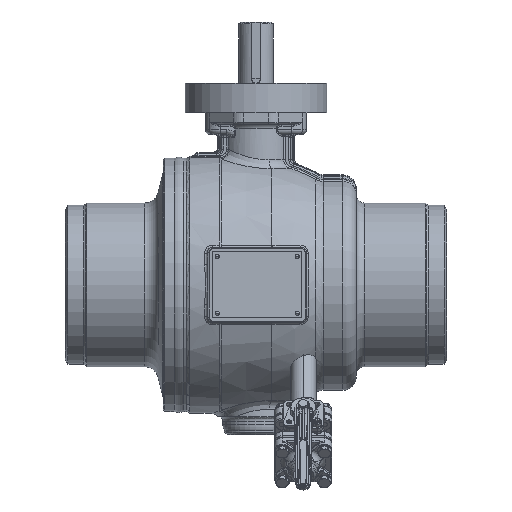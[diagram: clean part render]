
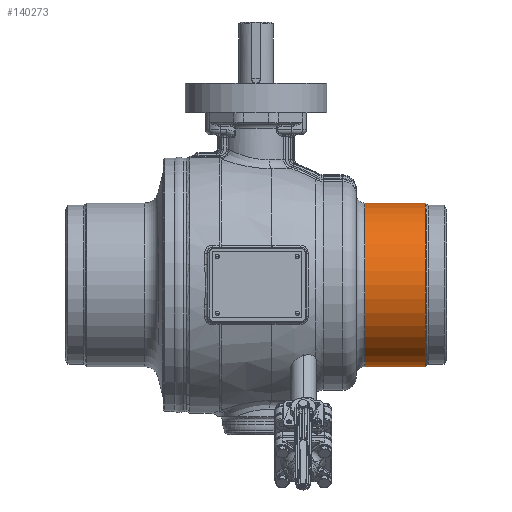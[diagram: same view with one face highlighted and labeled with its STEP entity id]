
A CAD part, front view. The second image highlights one B-rep face of the part: STEP entity #140273.
In plain terms, the highlighted cylindrical face has radius 86.5 mm (diameter 173 mm), a partial arc.
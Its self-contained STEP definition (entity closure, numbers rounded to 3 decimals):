
#39405=CARTESIAN_POINT('',(179.15,0.,0.));
#39406=DIRECTION('',(-1.,0.,0.));
#39407=DIRECTION('',(0.,0.,-1.));
#39408=AXIS2_PLACEMENT_3D('',#39405,#39406,#39407);
#39410=DIRECTION('',(-1.,0.,0.));
#39411=VECTOR('',#39410,64.15);
#39412=CARTESIAN_POINT('',(179.15,0.,-86.5));
#39413=LINE('',#39412,#39411);
#39414=CARTESIAN_POINT('',(115.,0.,0.));
#39415=DIRECTION('',(1.,0.,0.));
#39416=DIRECTION('',(0.,0.,1.));
#39417=AXIS2_PLACEMENT_3D('',#39414,#39415,#39416);
#39419=DIRECTION('',(-1.,0.,0.));
#39420=VECTOR('',#39419,64.15);
#39421=CARTESIAN_POINT('',(179.15,0.,86.5));
#39422=LINE('',#39421,#39420);
#64602=CARTESIAN_POINT('',(115.,0.,86.5));
#64603=CARTESIAN_POINT('',(115.,0.,-86.5));
#64604=VERTEX_POINT('',#64602);
#64605=VERTEX_POINT('',#64603);
#64698=CARTESIAN_POINT('',(179.15,0.,86.5));
#64699=CARTESIAN_POINT('',(179.15,0.,-86.5));
#64700=VERTEX_POINT('',#64698);
#64701=VERTEX_POINT('',#64699);
#140262=CARTESIAN_POINT('',(218.35,0.,0.));
#140263=DIRECTION('',(-1.,0.,0.));
#140264=DIRECTION('',(0.,0.,1.));
#140265=AXIS2_PLACEMENT_3D('',#140262,#140263,#140264);
#140266=CYLINDRICAL_SURFACE('',#140265,86.5);
#140267=ORIENTED_EDGE('',*,*,#140256,.F.);
#140268=ORIENTED_EDGE('',*,*,#140172,.T.);
#140269=ORIENTED_EDGE('',*,*,#140142,.F.);
#140270=ORIENTED_EDGE('',*,*,#140169,.F.);
#140271=EDGE_LOOP('',(#140267,#140268,#140269,#140270));
#140272=FACE_OUTER_BOUND('',#140271,.F.);
#140273=ADVANCED_FACE('',(#140272),#140266,.T.);
#39409=CIRCLE('',#39408,86.5);
#39418=CIRCLE('',#39417,86.5);
#140142=EDGE_CURVE('',#64604,#64605,#39418,.T.);
#140169=EDGE_CURVE('',#64700,#64604,#39422,.T.);
#140172=EDGE_CURVE('',#64701,#64605,#39413,.T.);
#140256=EDGE_CURVE('',#64701,#64700,#39409,.T.);
